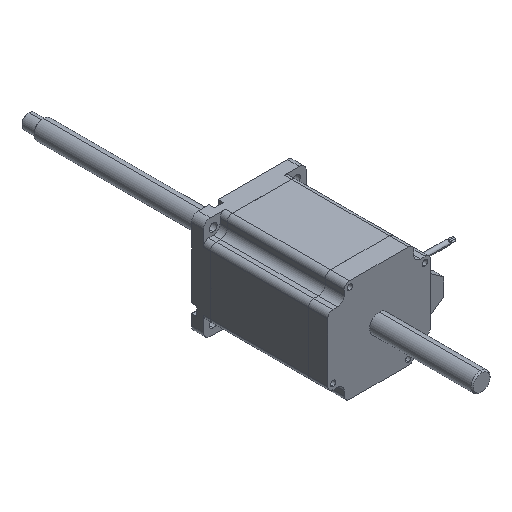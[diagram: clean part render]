
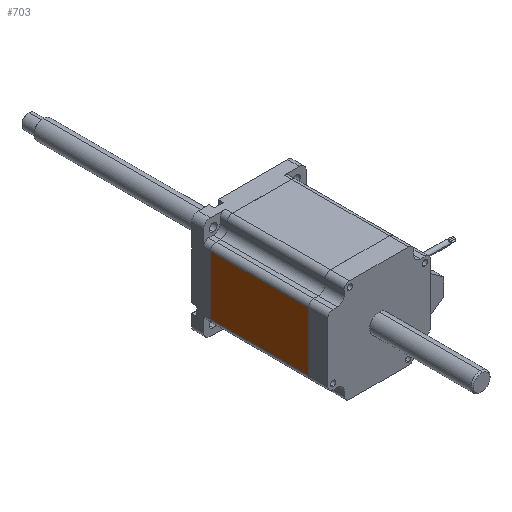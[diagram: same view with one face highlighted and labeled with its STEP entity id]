
A CAD part, isometric view. The second image highlights one B-rep face of the part: STEP entity #703.
In plain terms, the highlighted planar face has unit normal (-1, 0, 0).
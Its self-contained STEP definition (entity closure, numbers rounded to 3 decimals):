
#134 = DIRECTION ( 'NONE',  ( 0., 0., -1. ) ) ;
#320 = EDGE_CURVE ( 'NONE', #5403, #5793, #1298, .T. ) ;
#326 = VECTOR ( 'NONE', #2153, 1000. ) ;
#358 = VECTOR ( 'NONE', #3450, 1000. ) ;
#387 = ORIENTED_EDGE ( 'NONE', *, *, #320, .F. ) ;
#561 = CARTESIAN_POINT ( 'NONE',  ( -43., -6.008, 24.65 ) ) ;
#703 = ADVANCED_FACE ( 'NONE', ( #6497 ), #5632, .F. ) ;
#1298 = LINE ( 'NONE', #3618, #3113 ) ;
#1407 = CARTESIAN_POINT ( 'NONE',  ( -43., -87.992, 24.65 ) ) ;
#1468 = CARTESIAN_POINT ( 'NONE',  ( -43., -87.992, 37.3 ) ) ;
#1689 = EDGE_CURVE ( 'NONE', #5793, #4659, #4581, .T. ) ;
#2048 = CARTESIAN_POINT ( 'NONE',  ( -43., -87.992, -24.65 ) ) ;
#2132 = VERTEX_POINT ( 'NONE', #1407 ) ;
#2153 = DIRECTION ( 'NONE',  ( 0., 0., -1. ) ) ;
#2423 = LINE ( 'NONE', #6167, #358 ) ;
#3041 = DIRECTION ( 'NONE',  ( 0., 1., 0. ) ) ;
#3113 = VECTOR ( 'NONE', #3041, 1000. ) ;
#3265 = DIRECTION ( 'NONE',  ( 0., 0., 1. ) ) ;
#3450 = DIRECTION ( 'NONE',  ( 0., 1., 0. ) ) ;
#3552 = ORIENTED_EDGE ( 'NONE', *, *, #5457, .F. ) ;
#3618 = CARTESIAN_POINT ( 'NONE',  ( -43., -104., -24.65 ) ) ;
#3631 = EDGE_CURVE ( 'NONE', #2132, #4659, #2423, .T. ) ;
#3869 = CARTESIAN_POINT ( 'NONE',  ( -43., -6.008, 37.3 ) ) ;
#3972 = EDGE_LOOP ( 'NONE', ( #3552, #4840, #5285, #387 ) ) ;
#4112 = AXIS2_PLACEMENT_3D ( 'NONE', #6757, #6152, #134 ) ;
#4197 = LINE ( 'NONE', #1468, #326 ) ;
#4581 = LINE ( 'NONE', #3869, #5357 ) ;
#4659 = VERTEX_POINT ( 'NONE', #561 ) ;
#4665 = CARTESIAN_POINT ( 'NONE',  ( -43., -6.008, -24.65 ) ) ;
#4840 = ORIENTED_EDGE ( 'NONE', *, *, #3631, .T. ) ;
#5285 = ORIENTED_EDGE ( 'NONE', *, *, #1689, .F. ) ;
#5357 = VECTOR ( 'NONE', #3265, 1000. ) ;
#5403 = VERTEX_POINT ( 'NONE', #2048 ) ;
#5457 = EDGE_CURVE ( 'NONE', #2132, #5403, #4197, .T. ) ;
#5632 = PLANE ( 'NONE',  #4112 ) ;
#5793 = VERTEX_POINT ( 'NONE', #4665 ) ;
#6152 = DIRECTION ( 'NONE',  ( 1., 0., 0. ) ) ;
#6167 = CARTESIAN_POINT ( 'NONE',  ( -43., -104., 24.65 ) ) ;
#6497 = FACE_OUTER_BOUND ( 'NONE', #3972, .T. ) ;
#6757 = CARTESIAN_POINT ( 'NONE',  ( -43., 10., 37.3 ) ) ;
